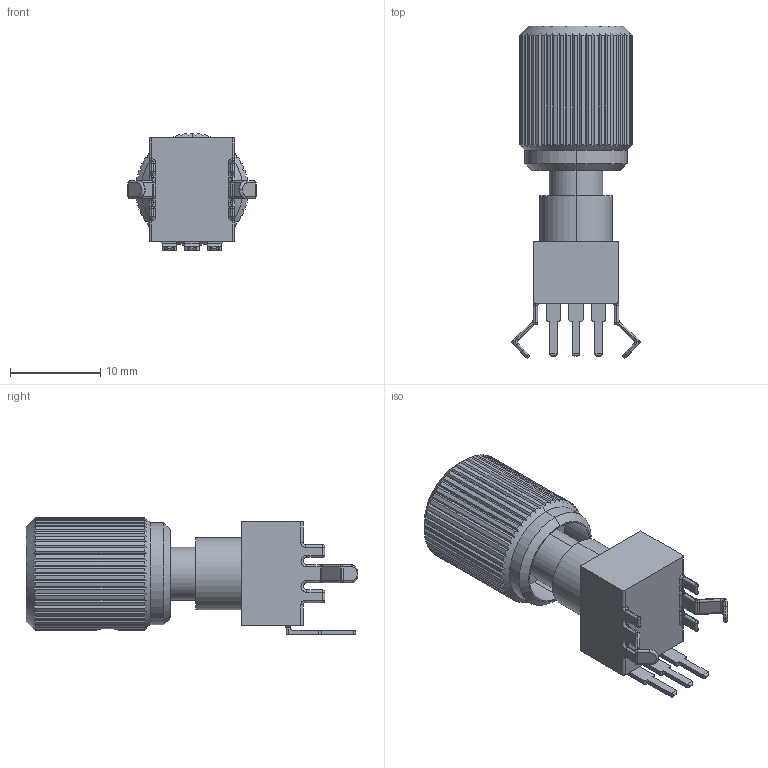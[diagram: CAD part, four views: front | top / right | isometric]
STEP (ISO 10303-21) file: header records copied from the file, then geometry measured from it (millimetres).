
FILE_DESCRIPTION (( 'STEP AP214' ), '1' );
FILE_NAME ('CMDR-ASM-POTENTIOMETER-R1.STEP', '2018-06-28T21:09:43', ( '' ), ( '' ), 'SwSTEP 2.0', 'SolidWorks 2016', '' );
FILE_SCHEMA (( 'AUTOMOTIVE_DESIGN' ));
Length unit declared in the file: metre
Products named in the file (1): CMDR-ASM-POTENTIOMETER-R1
Bounding box: 14.19 x 36.77 x 13 mm (x, y, z)
Volume: 2661.6 mm3; surface area: 2496.4 mm2
Topology: 2 solids, 2 shells, 462 faces, 1197 edges, 727 vertices
Faces by surface type: plane 181, cylinder 180, torus 44, sphere 26, bspline 24, cone 7
Entity records: 20553 total; most frequent: CARTESIAN_POINT 4750, ORIENTED_EDGE 2358, DIRECTION 2113, EDGE_CURVE 1179, AXIS2_PLACEMENT_3D 829, VERTEX_POINT 727, EDGE_LOOP 470, UNCERTAINTY_MEASURE_WITH_UNIT 466
